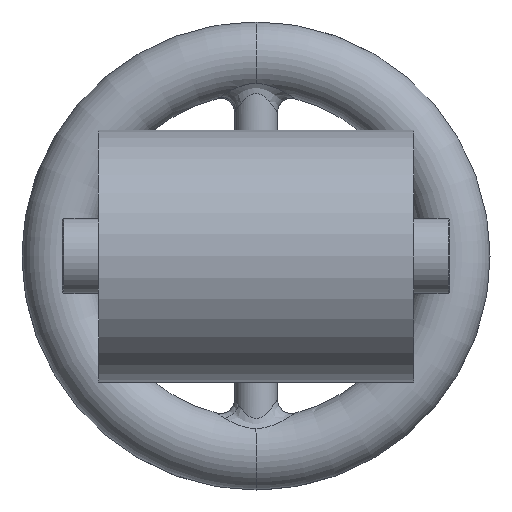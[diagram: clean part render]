
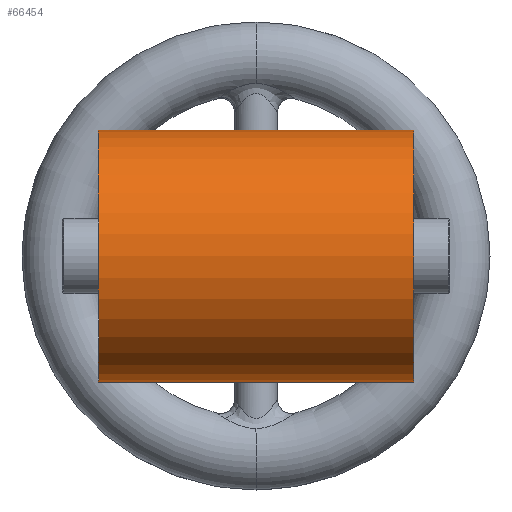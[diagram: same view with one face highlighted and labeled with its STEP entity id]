
A CAD part, front view. The second image highlights one B-rep face of the part: STEP entity #66454.
In plain terms, the highlighted cylindrical face has radius 44.45 mm (diameter 88.9 mm), a partial arc.
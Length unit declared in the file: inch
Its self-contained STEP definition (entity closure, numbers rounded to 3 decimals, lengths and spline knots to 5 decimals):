
#431 = DIRECTION ( 'NONE',  ( -1., 0., 0. ) ) ;
#2988 = DIRECTION ( 'NONE',  ( -1., 0., 0. ) ) ;
#4724 = CIRCLE ( 'NONE', #56185, 1.75 ) ;
#5867 = CARTESIAN_POINT ( 'NONE',  ( -2.1875, 0., 1.75 ) ) ;
#7516 = DIRECTION ( 'NONE',  ( 0., 0., 1. ) ) ;
#12313 = CYLINDRICAL_SURFACE ( 'NONE', #78502, 1.75 ) ;
#15090 = LINE ( 'NONE', #50083, #42961 ) ;
#15374 = EDGE_LOOP ( 'NONE', ( #24584, #39705, #73673, #18147 ) ) ;
#15550 = DIRECTION ( 'NONE',  ( -1., 0., 0. ) ) ;
#18147 = ORIENTED_EDGE ( 'NONE', *, *, #70625, .F. ) ;
#19507 = VECTOR ( 'NONE', #431, 39.37008 ) ;
#24584 = ORIENTED_EDGE ( 'NONE', *, *, #63786, .F. ) ;
#25661 = AXIS2_PLACEMENT_3D ( 'NONE', #66979, #2988, #67895 ) ;
#32042 = CARTESIAN_POINT ( 'NONE',  ( 2.1875, 0., -1.75 ) ) ;
#39705 = ORIENTED_EDGE ( 'NONE', *, *, #62015, .F. ) ;
#39921 = CARTESIAN_POINT ( 'NONE',  ( -2.1875, 0., -1.75 ) ) ;
#41746 = CARTESIAN_POINT ( 'NONE',  ( -3.2192, 0., 0. ) ) ;
#42961 = VECTOR ( 'NONE', #15550, 39.37008 ) ;
#47764 = FACE_OUTER_BOUND ( 'NONE', #15374, .T. ) ;
#49186 = CIRCLE ( 'NONE', #25661, 1.75 ) ;
#50083 = CARTESIAN_POINT ( 'NONE',  ( -3.2192, 0., 1.75 ) ) ;
#55690 = LINE ( 'NONE', #83816, #19507 ) ;
#56185 = AXIS2_PLACEMENT_3D ( 'NONE', #63701, #70610, #7516 ) ;
#57121 = VERTEX_POINT ( 'NONE', #85990 ) ;
#58788 = VERTEX_POINT ( 'NONE', #5867 ) ;
#61292 = EDGE_CURVE ( 'NONE', #57121, #58788, #15090, .T. ) ;
#62015 = EDGE_CURVE ( 'NONE', #57121, #75536, #4724, .T. ) ;
#63701 = CARTESIAN_POINT ( 'NONE',  ( 2.1875, 0., 0. ) ) ;
#63786 = EDGE_CURVE ( 'NONE', #75536, #89262, #55690, .T. ) ;
#66454 = ADVANCED_FACE ( 'NONE', ( #47764 ), #12313, .T. ) ;
#66979 = CARTESIAN_POINT ( 'NONE',  ( -2.1875, 0., 0. ) ) ;
#67895 = DIRECTION ( 'NONE',  ( 0., 0., 1. ) ) ;
#70610 = DIRECTION ( 'NONE',  ( 1., 0., 0. ) ) ;
#70625 = EDGE_CURVE ( 'NONE', #89262, #58788, #49186, .T. ) ;
#73673 = ORIENTED_EDGE ( 'NONE', *, *, #61292, .T. ) ;
#75536 = VERTEX_POINT ( 'NONE', #32042 ) ;
#75871 = DIRECTION ( 'NONE',  ( -1., 0., 0. ) ) ;
#78502 = AXIS2_PLACEMENT_3D ( 'NONE', #41746, #75871, #90607 ) ;
#83816 = CARTESIAN_POINT ( 'NONE',  ( -3.2192, 0., -1.75 ) ) ;
#85990 = CARTESIAN_POINT ( 'NONE',  ( 2.1875, 0., 1.75 ) ) ;
#89262 = VERTEX_POINT ( 'NONE', #39921 ) ;
#90607 = DIRECTION ( 'NONE',  ( 0., 0., 1. ) ) ;
